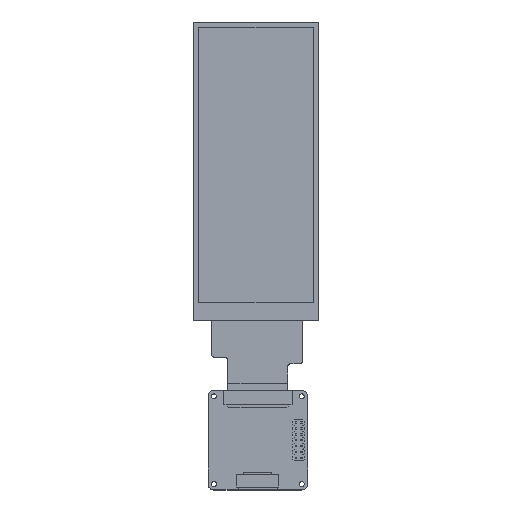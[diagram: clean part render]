
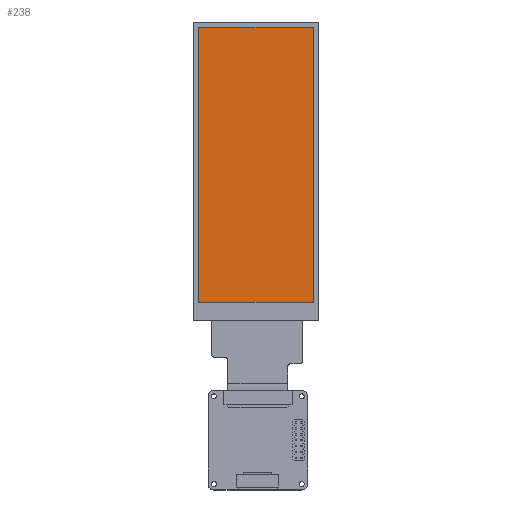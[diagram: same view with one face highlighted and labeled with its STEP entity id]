
A CAD part, top view. The second image highlights one B-rep face of the part: STEP entity #238.
In plain terms, the highlighted planar face has unit normal (0, 0, 1).
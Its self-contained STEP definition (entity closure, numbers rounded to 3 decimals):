
#86=DIRECTION('',(1.,0.,0.));
#87=VECTOR('',#86,39.18);
#88=CARTESIAN_POINT('',(-19.59,49.24,2.23));
#89=LINE('',#88,#87);
#90=DIRECTION('',(0.,1.,0.));
#91=VECTOR('',#90,94.03);
#92=CARTESIAN_POINT('',(-19.59,-44.79,2.23));
#93=LINE('',#92,#91);
#94=DIRECTION('',(-1.,0.,0.));
#95=VECTOR('',#94,39.18);
#96=CARTESIAN_POINT('',(19.59,-44.79,2.23));
#97=LINE('',#96,#95);
#98=DIRECTION('',(0.,-1.,0.));
#99=VECTOR('',#98,94.03);
#100=CARTESIAN_POINT('',(19.59,49.24,2.23));
#101=LINE('',#100,#99);
#118=CARTESIAN_POINT('',(-19.59,49.24,2.23));
#119=CARTESIAN_POINT('',(19.59,49.24,2.23));
#120=VERTEX_POINT('',#118);
#121=VERTEX_POINT('',#119);
#122=CARTESIAN_POINT('',(19.59,-44.79,2.23));
#123=VERTEX_POINT('',#122);
#124=CARTESIAN_POINT('',(-19.59,-44.79,2.23));
#125=VERTEX_POINT('',#124);
#227=CARTESIAN_POINT('',(0.,0.,2.23));
#228=DIRECTION('',(0.,0.,1.));
#229=DIRECTION('',(1.,0.,0.));
#230=AXIS2_PLACEMENT_3D('',#227,#228,#229);
#231=PLANE('',#230);
#232=ORIENTED_EDGE('',*,*,#209,.T.);
#233=ORIENTED_EDGE('',*,*,#215,.T.);
#234=ORIENTED_EDGE('',*,*,#213,.T.);
#235=ORIENTED_EDGE('',*,*,#211,.T.);
#236=EDGE_LOOP('',(#232,#233,#234,#235));
#237=FACE_OUTER_BOUND('',#236,.F.);
#209=EDGE_CURVE('',#120,#121,#89,.T.);
#211=EDGE_CURVE('',#125,#120,#93,.T.);
#213=EDGE_CURVE('',#123,#125,#97,.T.);
#215=EDGE_CURVE('',#121,#123,#101,.T.);
#238=ADVANCED_FACE('',(#237),#231,.T.);
